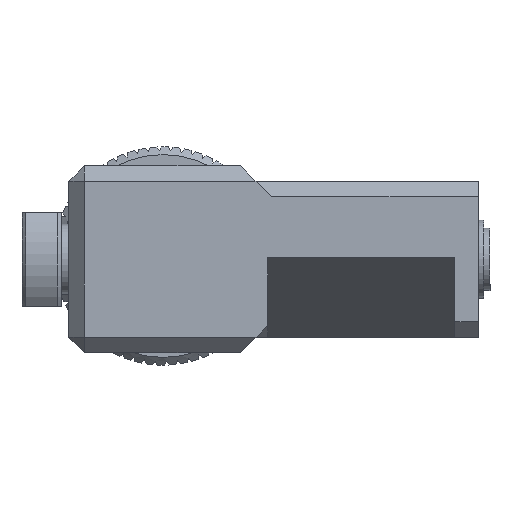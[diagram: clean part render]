
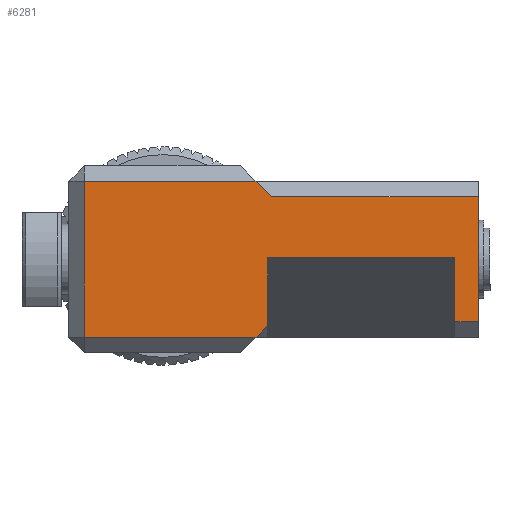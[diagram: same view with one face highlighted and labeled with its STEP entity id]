
A CAD part, front view. The second image highlights one B-rep face of the part: STEP entity #6281.
In plain terms, the highlighted planar face has unit normal (0, -1, 0).
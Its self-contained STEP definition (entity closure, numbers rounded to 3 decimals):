
#2 = VERTEX_POINT ( 'NONE', #992 ) ;
#247 = VERTEX_POINT ( 'NONE', #8831 ) ;
#275 = CARTESIAN_POINT ( 'NONE',  ( -22.485, -63.648, 422.782 ) ) ;
#276 = VECTOR ( 'NONE', #2802, 1000. ) ;
#290 = CARTESIAN_POINT ( 'NONE',  ( 25.015, -63.648, 422.98 ) ) ;
#297 = VERTEX_POINT ( 'NONE', #2909 ) ;
#515 = EDGE_CURVE ( 'NONE', #2, #2332, #7150, .T. ) ;
#599 = VERTEX_POINT ( 'NONE', #9350 ) ;
#759 = CARTESIAN_POINT ( 'NONE',  ( -12.485, -63.648, 430.782 ) ) ;
#964 = ORIENTED_EDGE ( 'NONE', *, *, #3478, .F. ) ;
#992 = CARTESIAN_POINT ( 'NONE',  ( 28.015, -63.648, 414.782 ) ) ;
#1000 = EDGE_LOOP ( 'NONE', ( #4477, #964, #7189, #4819, #5348, #3422, #5643, #9370, #7114, #5635, #3324 ) ) ;
#1403 = CARTESIAN_POINT ( 'NONE',  ( 1.015, -63.648, 414.282 ) ) ;
#1493 = CARTESIAN_POINT ( 'NONE',  ( 1.015, -63.648, 422.98 ) ) ;
#1503 = DIRECTION ( 'NONE',  ( -0.707, 0., -0.707 ) ) ;
#1772 = DIRECTION ( 'NONE',  ( 0.707, 0., -0.707 ) ) ;
#1909 = CARTESIAN_POINT ( 'NONE',  ( -12.485, -63.648, 422.782 ) ) ;
#1938 = DIRECTION ( 'NONE',  ( -1., 0., 0. ) ) ;
#1974 = VERTEX_POINT ( 'NONE', #3875 ) ;
#2025 = CARTESIAN_POINT ( 'NONE',  ( -12.485, -63.648, 412.782 ) ) ;
#2194 = VECTOR ( 'NONE', #4479, 1000. ) ;
#2230 = VECTOR ( 'NONE', #1772, 1000. ) ;
#2281 = CARTESIAN_POINT ( 'NONE',  ( 25.015, -63.648, 422.782 ) ) ;
#2332 = VERTEX_POINT ( 'NONE', #6552 ) ;
#2376 = AXIS2_PLACEMENT_3D ( 'NONE', #1909, #7700, #7078 ) ;
#2426 = LINE ( 'NONE', #3947, #8928 ) ;
#2802 = DIRECTION ( 'NONE',  ( -1., 0., 0. ) ) ;
#2909 = CARTESIAN_POINT ( 'NONE',  ( -0.485, -63.648, 412.782 ) ) ;
#2913 = VECTOR ( 'NONE', #7309, 1000. ) ;
#3121 = VECTOR ( 'NONE', #9339, 1000. ) ;
#3324 = ORIENTED_EDGE ( 'NONE', *, *, #4020, .F. ) ;
#3348 = DIRECTION ( 'NONE',  ( 0., 0., -1. ) ) ;
#3422 = ORIENTED_EDGE ( 'NONE', *, *, #5513, .F. ) ;
#3478 = EDGE_CURVE ( 'NONE', #9100, #2, #4877, .T. ) ;
#3574 = LINE ( 'NONE', #759, #2913 ) ;
#3689 = CARTESIAN_POINT ( 'NONE',  ( 28.015, -63.648, 430.782 ) ) ;
#3797 = DIRECTION ( 'NONE',  ( 0., 0., 1. ) ) ;
#3875 = CARTESIAN_POINT ( 'NONE',  ( 1.015, -63.648, 414.282 ) ) ;
#3907 = VECTOR ( 'NONE', #8677, 1000. ) ;
#3947 = CARTESIAN_POINT ( 'NONE',  ( -12.485, -63.648, 432.782 ) ) ;
#4020 = EDGE_CURVE ( 'NONE', #2332, #6140, #8082, .T. ) ;
#4052 = LINE ( 'NONE', #6937, #5128 ) ;
#4068 = VECTOR ( 'NONE', #1938, 1000. ) ;
#4100 = FACE_OUTER_BOUND ( 'NONE', #1000, .T. ) ;
#4114 = EDGE_CURVE ( 'NONE', #8802, #247, #2426, .T. ) ;
#4147 = PLANE ( 'NONE',  #2376 ) ;
#4477 = ORIENTED_EDGE ( 'NONE', *, *, #515, .F. ) ;
#4479 = DIRECTION ( 'NONE',  ( 0., 0., 1. ) ) ;
#4540 = LINE ( 'NONE', #7467, #2230 ) ;
#4658 = VECTOR ( 'NONE', #3797, 1000. ) ;
#4819 = ORIENTED_EDGE ( 'NONE', *, *, #6136, .F. ) ;
#4877 = LINE ( 'NONE', #7808, #3121 ) ;
#5082 = CARTESIAN_POINT ( 'NONE',  ( -12.485, -63.648, 422.98 ) ) ;
#5128 = VECTOR ( 'NONE', #3348, 1000. ) ;
#5348 = ORIENTED_EDGE ( 'NONE', *, *, #4114, .F. ) ;
#5473 = CARTESIAN_POINT ( 'NONE',  ( -12.485, -63.648, 414.782 ) ) ;
#5513 = EDGE_CURVE ( 'NONE', #9347, #8802, #7496, .T. ) ;
#5635 = ORIENTED_EDGE ( 'NONE', *, *, #9164, .F. ) ;
#5643 = ORIENTED_EDGE ( 'NONE', *, *, #7946, .F. ) ;
#5664 = LINE ( 'NONE', #2025, #3907 ) ;
#5817 = CARTESIAN_POINT ( 'NONE',  ( -22.485, -63.648, 432.782 ) ) ;
#6136 = EDGE_CURVE ( 'NONE', #247, #599, #4540, .T. ) ;
#6140 = VERTEX_POINT ( 'NONE', #290 ) ;
#6281 = ADVANCED_FACE ( 'NONE', ( #4100 ), #4147, .F. ) ;
#6315 = EDGE_CURVE ( 'NONE', #8423, #1974, #4052, .T. ) ;
#6378 = EDGE_CURVE ( 'NONE', #599, #9100, #3574, .T. ) ;
#6552 = CARTESIAN_POINT ( 'NONE',  ( 25.015, -63.648, 414.782 ) ) ;
#6937 = CARTESIAN_POINT ( 'NONE',  ( 1.015, -63.648, 422.782 ) ) ;
#6954 = CARTESIAN_POINT ( 'NONE',  ( -22.485, -63.648, 412.782 ) ) ;
#7078 = DIRECTION ( 'NONE',  ( -1., 0., 0. ) ) ;
#7114 = ORIENTED_EDGE ( 'NONE', *, *, #6315, .F. ) ;
#7150 = LINE ( 'NONE', #5473, #4068 ) ;
#7189 = ORIENTED_EDGE ( 'NONE', *, *, #6378, .F. ) ;
#7309 = DIRECTION ( 'NONE',  ( 1., 0., 0. ) ) ;
#7337 = LINE ( 'NONE', #5082, #276 ) ;
#7467 = CARTESIAN_POINT ( 'NONE',  ( -0.485, -63.648, 432.782 ) ) ;
#7496 = LINE ( 'NONE', #275, #4658 ) ;
#7593 = VECTOR ( 'NONE', #1503, 1000. ) ;
#7700 = DIRECTION ( 'NONE',  ( 0., 1., 0. ) ) ;
#7808 = CARTESIAN_POINT ( 'NONE',  ( 28.015, -63.648, 422.782 ) ) ;
#7893 = EDGE_CURVE ( 'NONE', #1974, #297, #8058, .T. ) ;
#7946 = EDGE_CURVE ( 'NONE', #297, #9347, #5664, .T. ) ;
#8058 = LINE ( 'NONE', #1403, #7593 ) ;
#8082 = LINE ( 'NONE', #2281, #2194 ) ;
#8370 = DIRECTION ( 'NONE',  ( 1., 0., 0. ) ) ;
#8423 = VERTEX_POINT ( 'NONE', #1493 ) ;
#8677 = DIRECTION ( 'NONE',  ( -1., 0., 0. ) ) ;
#8802 = VERTEX_POINT ( 'NONE', #5817 ) ;
#8831 = CARTESIAN_POINT ( 'NONE',  ( -0.485, -63.648, 432.782 ) ) ;
#8928 = VECTOR ( 'NONE', #8370, 1000. ) ;
#9100 = VERTEX_POINT ( 'NONE', #3689 ) ;
#9164 = EDGE_CURVE ( 'NONE', #6140, #8423, #7337, .T. ) ;
#9339 = DIRECTION ( 'NONE',  ( 0., 0., -1. ) ) ;
#9347 = VERTEX_POINT ( 'NONE', #6954 ) ;
#9350 = CARTESIAN_POINT ( 'NONE',  ( 1.515, -63.648, 430.782 ) ) ;
#9370 = ORIENTED_EDGE ( 'NONE', *, *, #7893, .F. ) ;
